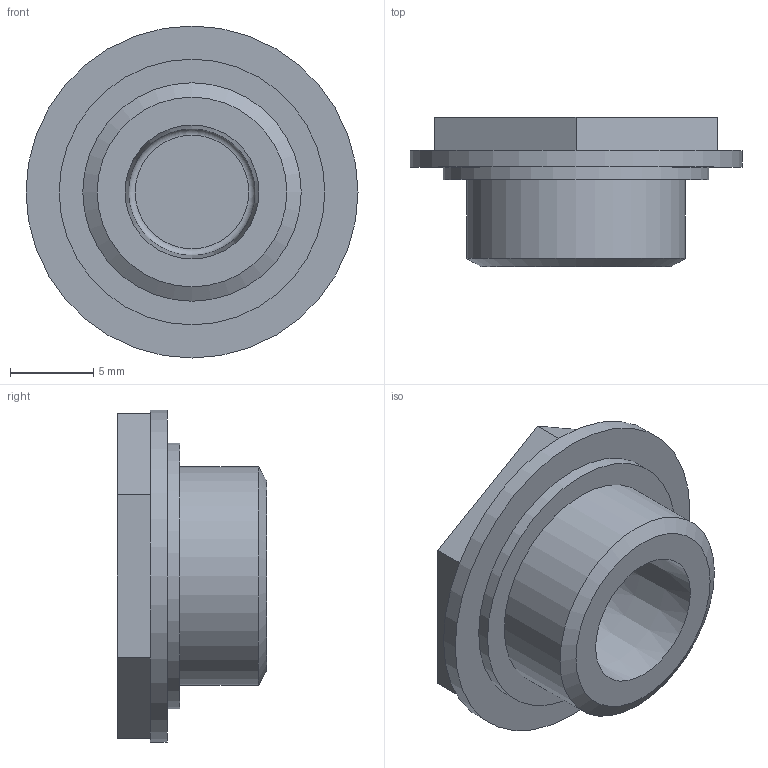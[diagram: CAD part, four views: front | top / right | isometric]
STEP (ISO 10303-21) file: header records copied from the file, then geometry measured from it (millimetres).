
FILE_DESCRIPTION( ( 'STEP AP203' ), '1' );
FILE_NAME( 'C:/Temp/Ganter_Step_05_03_2020/data/3_5/tlt/Oil Level Sight Glass TLT-G1_4.stp', '2020-03-12T13:43:32', ( 'License CC BY-ND 4.0' ), ( 'CADENAS' ), ' ', 'PARTsolutions', ' ' );
FILE_SCHEMA( ( 'CONFIG_CONTROL_DESIGN' ) );
Length unit declared in the file: millimetre
Products named in the file (1): _Oil Level Sight Glass TLT-G1/4
Bounding box: 20 x 9 x 20 mm (x, y, z)
Volume: 1242.3 mm3; surface area: 1219 mm2
Topology: 1 solids, 1 shells, 22 faces, 41 edges, 27 vertices
Faces by surface type: plane 14, cylinder 4, cone 3, torus 1
Full cylindrical faces by diameter (mm): 1.778 x1, 13.157 x1, 16 x1, 20 x1
Entity records: 546 total; most frequent: DIRECTION 92, CARTESIAN_POINT 81, ORIENTED_EDGE 64, AXIS2_PLACEMENT_3D 37, EDGE_LOOP 36, EDGE_CURVE 32, FACE_OUTER_BOUND 27, VERTEX_POINT 26
